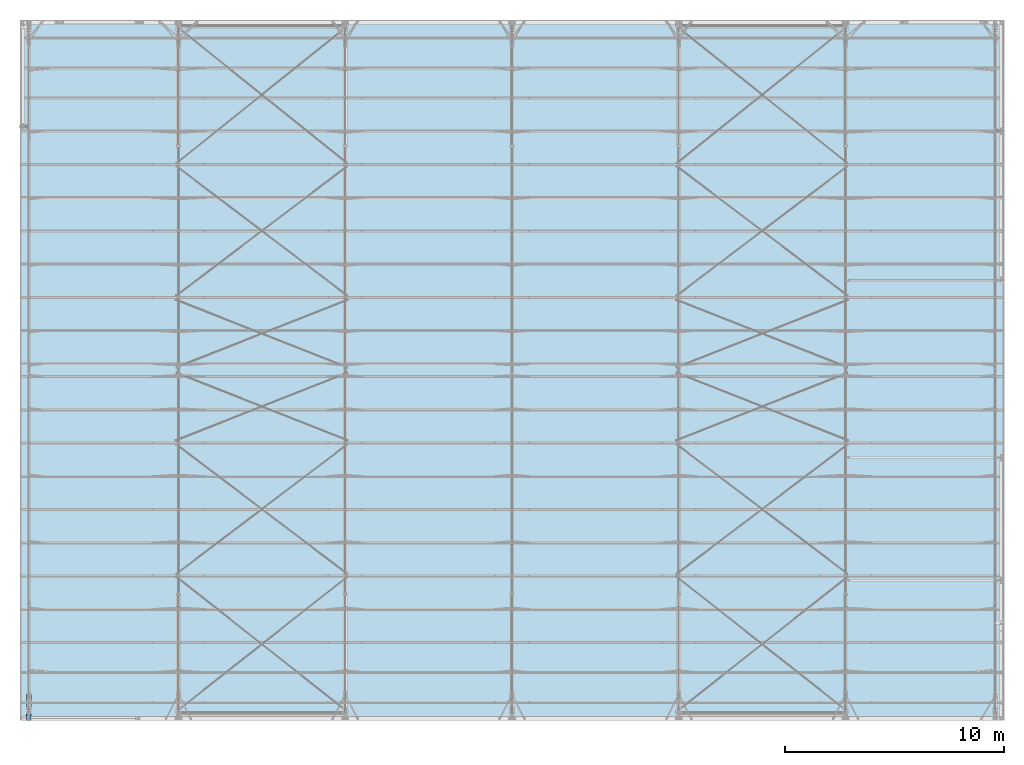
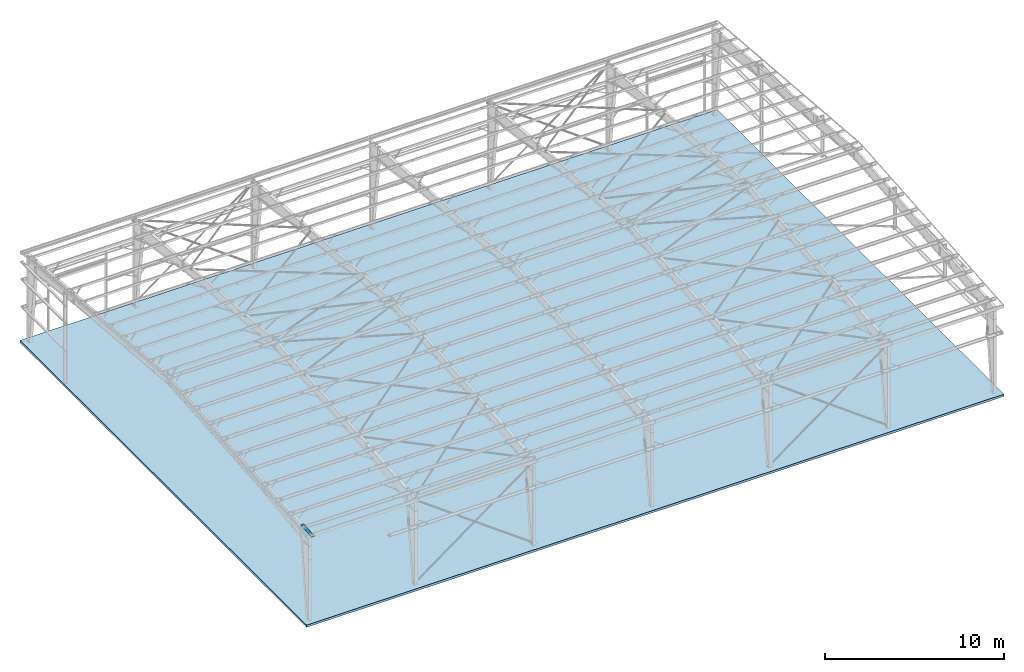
# One storey, part 49 of 185: 1 discrete accessory, 1 slab, 2 elements without a shape of their own.
"""IFC2X3 building model written with IfcOpenShell, lengths in millimetres."""

from ifc_helpers import new_model, si_unit, frame, origin_with_axes, origin_2d_with_axis, place, context, subcontext, project, spatial, polyline, rectangle, outline, extrude, material, type_object, element, aggregate, save


model = new_model("IFC2X3")

# Units and contexts
model_context = context("Model", 3, precision=1e-05, world=origin_with_axes())
body_context = subcontext(model_context, "Body", "Model", "MODEL_VIEW")
ifc_project = project(units=[si_unit("LENGTHUNIT", "METRE", prefix="MILLI"), si_unit("AREAUNIT", "SQUARE_METRE"), si_unit("VOLUMEUNIT", "CUBIC_METRE"), si_unit("MASSUNIT", "GRAM", prefix="KILO"), si_unit("TIMEUNIT", "SECOND"), si_unit("PLANEANGLEUNIT", "RADIAN"), si_unit("SOLIDANGLEUNIT", "STERADIAN"), si_unit("THERMODYNAMICTEMPERATUREUNIT", "DEGREE_CELSIUS"), si_unit("LUMINOUSINTENSITYUNIT", "LUMEN")], contexts=[model_context])

# Site, building, storey
site_placement = place(None, origin_with_axes())
site = spatial("IfcSite", under=ifc_project, at=site_placement, Name="Undefined", CompositionType="ELEMENT")
building_placement = place(site_placement, origin_with_axes())
building = spatial("IfcBuilding", under=site, at=building_placement, Name="Undefined", CompositionType="ELEMENT")
storey_placement = place(building_placement, origin_with_axes())
storey = spatial("IfcBuildingStorey", under=building, at=storey_placement, Name="Undefined", CompositionType="ELEMENT", Elevation=0.0)

# Assembly, slab
assembly_1_placement = place(storey_placement, origin_with_axes())
assembly_1 = element("IfcElementAssembly", 1, at=assembly_1_placement, inside=storey, Name="Main Slab", AssemblyPlace="NOTDEFINED", PredefinedType="REINFORCEMENT_UNIT")
ifc_material_1 = material(Name="CONCRETE/3000")
slab_type = type_object("IfcSlabType", Name="6\"X1260\"", PredefinedType="NOTDEFINED")
slab_placement = place(assembly_1_placement, frame((0.0, 0.0, -76.2), z_axis=(0.0, 0.0, 1.0), x_axis=(1.0, 0.0, 0.0)))
slab = element("IfcSlab", 2, at=slab_placement, type_object=slab_type, material=ifc_material_1, Name="Main Slab", ObjectType="6\"X1260\"", PredefinedType="FLOOR", context=body_context, shape_type="SweptSolid", body=[
    extrude(outline(polyline([(0.0, 0.0), (44958.0, 0.0), (44958.0, 32004.0), (0.0, 32004.0), (0.0, 0.0)])), frame((0.0, 0.0, -76.2), z_axis=(0.0, 0.0, 1.0), x_axis=(1.0, 0.0, 0.0)), (0.0, 0.0, 1.0), 152.4),
])
aggregate(assembly_1, [slab])

# Assembly, discrete accessory
assembly_2_placement = place(storey_placement, origin_with_axes())
assembly_2 = element("IfcElementAssembly", 3, at=assembly_2_placement, inside=storey, Name="Steel Assembly", AssemblyPlace="NOTDEFINED", PredefinedType="RIGID_FRAME")
ifc_material_2 = material(Name="STEEL/55")
discrete_accessory_type = type_object("IfcDiscreteAccessoryType", Name="Cap Plate")
discrete_accessory_placement = place(assembly_2_placement, frame((406.400000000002, 0.26366939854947, 5888.93163235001), z_axis=(-1.0, 0.0, 0.0), x_axis=(0.0, 0.996545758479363, 0.0830454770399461)))
discrete_accessory = element("IfcDiscreteAccessory", 4, at=discrete_accessory_placement, type_object=discrete_accessory_type, material=ifc_material_2, Name="Cap Plate", ObjectType="FL1/4\"X8\"", context=body_context, shape_type="SweptSolid", body=[
    extrude(rectangle(XDim=6.35, YDim=203.2, at=origin_2d_with_axis()), frame((1203.78081114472, 0.0, 0.0), z_axis=(-1.0, 0.0, 0.0), x_axis=(0.0, -1.0, 0.0)), (0.0, 0.0, 1.0), 1203.8),
])
aggregate(assembly_2, [discrete_accessory])

save(model, "model.ifc")
